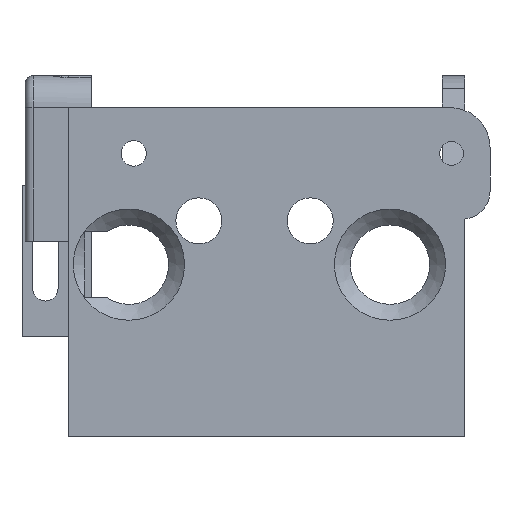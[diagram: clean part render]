
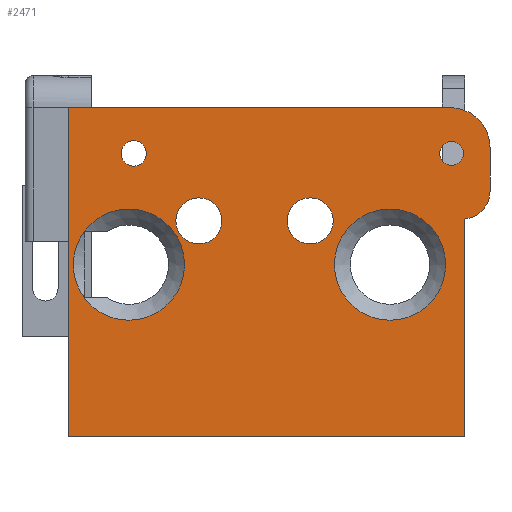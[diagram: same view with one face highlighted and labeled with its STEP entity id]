
A CAD part, front view. The second image highlights one B-rep face of the part: STEP entity #2471.
In plain terms, the highlighted planar face has unit normal (0, -1, 0).
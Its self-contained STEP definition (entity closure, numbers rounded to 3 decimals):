
#77=FACE_BOUND('',#317,.T.);
#78=FACE_BOUND('',#318,.T.);
#79=FACE_BOUND('',#319,.T.);
#80=FACE_BOUND('',#320,.T.);
#81=FACE_BOUND('',#321,.T.);
#82=FACE_BOUND('',#322,.T.);
#109=PLANE('',#2621);
#182=FACE_OUTER_BOUND('',#316,.T.);
#316=EDGE_LOOP('',(#1734,#1735,#1736,#1737,#1738,#1739,#1740));
#317=EDGE_LOOP('',(#1741));
#318=EDGE_LOOP('',(#1742));
#319=EDGE_LOOP('',(#1743));
#320=EDGE_LOOP('',(#1744));
#321=EDGE_LOOP('',(#1745));
#322=EDGE_LOOP('',(#1746));
#490=LINE('',#3648,#743);
#491=LINE('',#3650,#744);
#492=LINE('',#3652,#745);
#493=LINE('',#3656,#746);
#494=LINE('',#3659,#747);
#743=VECTOR('',#2884,10.);
#744=VECTOR('',#2885,10.);
#745=VECTOR('',#2886,10.);
#746=VECTOR('',#2889,10.);
#747=VECTOR('',#2892,10.);
#987=CIRCLE('',#2617,7.);
#989=CIRCLE('',#2622,3.5);
#990=CIRCLE('',#2623,5.);
#991=CIRCLE('',#2624,7.);
#992=CIRCLE('',#2625,2.9);
#993=CIRCLE('',#2626,2.9);
#994=CIRCLE('',#2627,1.6);
#995=CIRCLE('',#2628,1.5);
#1098=VERTEX_POINT('',#3608);
#1110=VERTEX_POINT('',#3646);
#1111=VERTEX_POINT('',#3647);
#1112=VERTEX_POINT('',#3649);
#1113=VERTEX_POINT('',#3651);
#1114=VERTEX_POINT('',#3653);
#1115=VERTEX_POINT('',#3655);
#1116=VERTEX_POINT('',#3657);
#1117=VERTEX_POINT('',#3660);
#1118=VERTEX_POINT('',#3662);
#1119=VERTEX_POINT('',#3664);
#1120=VERTEX_POINT('',#3666);
#1121=VERTEX_POINT('',#3668);
#1340=EDGE_CURVE('',#1098,#1098,#987,.T.);
#1355=EDGE_CURVE('',#1110,#1111,#490,.T.);
#1356=EDGE_CURVE('',#1112,#1110,#491,.T.);
#1357=EDGE_CURVE('',#1112,#1113,#492,.T.);
#1358=EDGE_CURVE('',#1114,#1113,#989,.T.);
#1359=EDGE_CURVE('',#1114,#1115,#493,.T.);
#1360=EDGE_CURVE('',#1116,#1115,#990,.T.);
#1361=EDGE_CURVE('',#1116,#1111,#494,.T.);
#1362=EDGE_CURVE('',#1117,#1117,#991,.T.);
#1363=EDGE_CURVE('',#1118,#1118,#992,.T.);
#1364=EDGE_CURVE('',#1119,#1119,#993,.T.);
#1365=EDGE_CURVE('',#1120,#1120,#994,.T.);
#1366=EDGE_CURVE('',#1121,#1121,#995,.T.);
#1734=ORIENTED_EDGE('',*,*,#1355,.F.);
#1735=ORIENTED_EDGE('',*,*,#1356,.F.);
#1736=ORIENTED_EDGE('',*,*,#1357,.T.);
#1737=ORIENTED_EDGE('',*,*,#1358,.F.);
#1738=ORIENTED_EDGE('',*,*,#1359,.T.);
#1739=ORIENTED_EDGE('',*,*,#1360,.F.);
#1740=ORIENTED_EDGE('',*,*,#1361,.T.);
#1741=ORIENTED_EDGE('',*,*,#1362,.F.);
#1742=ORIENTED_EDGE('',*,*,#1363,.F.);
#1743=ORIENTED_EDGE('',*,*,#1364,.F.);
#1744=ORIENTED_EDGE('',*,*,#1365,.F.);
#1745=ORIENTED_EDGE('',*,*,#1366,.T.);
#1746=ORIENTED_EDGE('',*,*,#1340,.F.);
#2471=ADVANCED_FACE('',(#182,#77,#78,#79,#80,#81,#82),#109,.F.);
#2617=AXIS2_PLACEMENT_3D('',#3609,#2865,#2866);
#2621=AXIS2_PLACEMENT_3D('',#3645,#2882,#2883);
#2622=AXIS2_PLACEMENT_3D('',#3654,#2887,#2888);
#2623=AXIS2_PLACEMENT_3D('',#3658,#2890,#2891);
#2624=AXIS2_PLACEMENT_3D('',#3661,#2893,#2894);
#2625=AXIS2_PLACEMENT_3D('',#3663,#2895,#2896);
#2626=AXIS2_PLACEMENT_3D('',#3665,#2897,#2898);
#2627=AXIS2_PLACEMENT_3D('',#3667,#2899,#2900);
#2628=AXIS2_PLACEMENT_3D('',#3669,#2901,#2902);
#2865=DIRECTION('center_axis',(0.,-1.,0.));
#2866=DIRECTION('ref_axis',(1.,0.,0.));
#2882=DIRECTION('center_axis',(0.,1.,0.));
#2883=DIRECTION('ref_axis',(-1.,0.,0.));
#2884=DIRECTION('',(0.,0.,1.));
#2885=DIRECTION('',(-1.,0.,0.));
#2886=DIRECTION('',(0.,0.,1.));
#2887=DIRECTION('center_axis',(0.,1.,0.));
#2888=DIRECTION('ref_axis',(0.707,0.,-0.707));
#2889=DIRECTION('',(0.,0.,1.));
#2890=DIRECTION('center_axis',(0.,1.,0.));
#2891=DIRECTION('ref_axis',(0.707,0.,0.707));
#2892=DIRECTION('',(-1.,0.,0.));
#2893=DIRECTION('center_axis',(0.,-1.,0.));
#2894=DIRECTION('ref_axis',(-1.,0.,0.));
#2895=DIRECTION('center_axis',(0.,-1.,0.));
#2896=DIRECTION('ref_axis',(-1.,0.,0.));
#2897=DIRECTION('center_axis',(0.,-1.,0.));
#2898=DIRECTION('ref_axis',(-1.,0.,0.));
#2899=DIRECTION('center_axis',(0.,-1.,0.));
#2900=DIRECTION('ref_axis',(-1.,0.,0.));
#2901=DIRECTION('center_axis',(0.,1.,0.));
#2902=DIRECTION('ref_axis',(-1.,0.,0.));
#3608=CARTESIAN_POINT('',(-47.054,-21.281,41.8));
#3609=CARTESIAN_POINT('Origin',(-40.054,-21.281,41.8));
#3645=CARTESIAN_POINT('Origin',(-22.192,-21.281,42.691));
#3646=CARTESIAN_POINT('',(-47.605,-21.281,20.222));
#3647=CARTESIAN_POINT('',(-47.605,-21.281,61.56));
#3648=CARTESIAN_POINT('',(-47.605,-21.281,22.822));
#3649=CARTESIAN_POINT('',(2.195,-21.281,20.222));
#3650=CARTESIAN_POINT('',(-1.605,-21.281,20.222));
#3651=CARTESIAN_POINT('',(2.195,-21.281,47.54));
#3652=CARTESIAN_POINT('',(2.195,-21.281,47.528));
#3653=CARTESIAN_POINT('',(5.395,-21.281,51.028));
#3654=CARTESIAN_POINT('Origin',(1.895,-21.281,51.028));
#3655=CARTESIAN_POINT('',(5.395,-21.281,56.56));
#3656=CARTESIAN_POINT('',(5.395,-21.281,62.56));
#3657=CARTESIAN_POINT('',(0.395,-21.281,61.56));
#3658=CARTESIAN_POINT('Origin',(0.395,-21.281,56.56));
#3659=CARTESIAN_POINT('',(-32.486,-21.281,61.56));
#3660=CARTESIAN_POINT('',(-0.188,-21.281,41.8));
#3661=CARTESIAN_POINT('Origin',(-7.188,-21.281,41.8));
#3662=CARTESIAN_POINT('',(-14.34,-21.281,47.3));
#3663=CARTESIAN_POINT('Origin',(-17.24,-21.281,47.3));
#3664=CARTESIAN_POINT('',(-28.34,-21.281,47.3));
#3665=CARTESIAN_POINT('Origin',(-31.24,-21.281,47.3));
#3666=CARTESIAN_POINT('',(-37.84,-21.281,55.8));
#3667=CARTESIAN_POINT('Origin',(-39.44,-21.281,55.8));
#3668=CARTESIAN_POINT('',(2.06,-21.281,55.8));
#3669=CARTESIAN_POINT('Origin',(0.56,-21.281,55.8));
